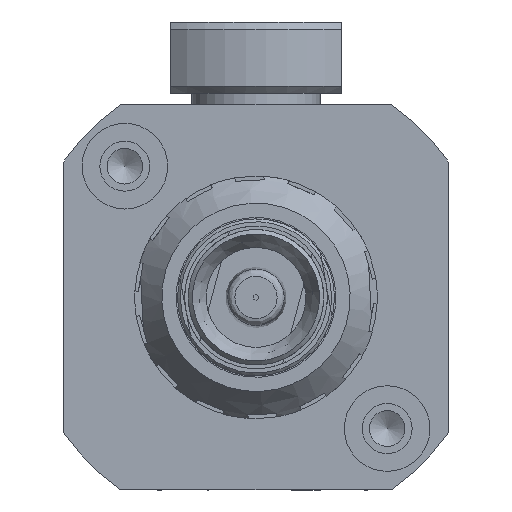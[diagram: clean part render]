
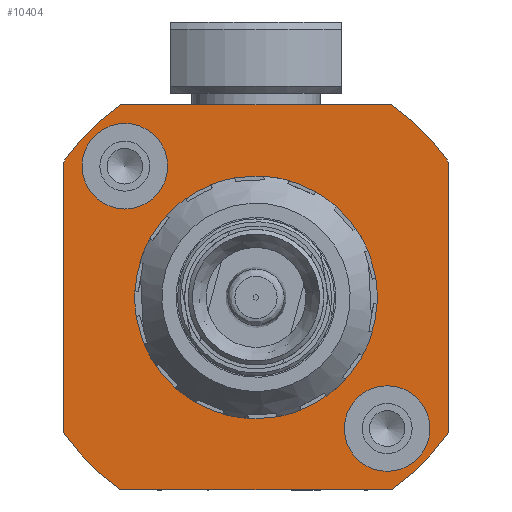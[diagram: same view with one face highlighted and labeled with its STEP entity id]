
A CAD part, front view. The second image highlights one B-rep face of the part: STEP entity #10404.
In plain terms, the highlighted planar face has unit normal (0, -1, 0).
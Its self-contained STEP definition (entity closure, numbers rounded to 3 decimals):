
#111 = AXIS2_PLACEMENT_3D ( 'NONE', #20947, #1014, #6873 ) ;
#171 = DIRECTION ( 'NONE',  ( 0., 0., -1. ) ) ;
#241 = CARTESIAN_POINT ( 'NONE',  ( -33.875, -75.56, 312.874 ) ) ;
#299 = DIRECTION ( 'NONE',  ( 0., 1., 0. ) ) ;
#454 = CARTESIAN_POINT ( 'NONE',  ( -37.888, -75.56, 316.887 ) ) ;
#632 = CARTESIAN_POINT ( 'NONE',  ( -15.196, -75.56, 317.181 ) ) ;
#692 = DIRECTION ( 'NONE',  ( -1., 0., 0. ) ) ;
#1014 = DIRECTION ( 'NONE',  ( 0., 1., 0. ) ) ;
#1813 = VERTEX_POINT ( 'NONE', #241 ) ;
#1875 = DIRECTION ( 'NONE',  ( 0., -1., 0. ) ) ;
#2005 = AXIS2_PLACEMENT_3D ( 'NONE', #2814, #7050, #8825 ) ;
#2060 = CARTESIAN_POINT ( 'NONE',  ( -24.388, -75.56, 326.374 ) ) ;
#2186 = ORIENTED_EDGE ( 'NONE', *, *, #10902, .F. ) ;
#2475 = CARTESIAN_POINT ( 'NONE',  ( -37.888, -75.56, 335.861 ) ) ;
#2814 = CARTESIAN_POINT ( 'NONE',  ( -24.388, -75.56, 326.374 ) ) ;
#2832 = EDGE_LOOP ( 'NONE', ( #2186 ) ) ;
#3388 = VERTEX_POINT ( 'NONE', #454 ) ;
#3494 = FACE_OUTER_BOUND ( 'NONE', #11278, .T. ) ;
#3549 = EDGE_CURVE ( 'NONE', #22873, #6006, #16748, .T. ) ;
#3553 = ORIENTED_EDGE ( 'NONE', *, *, #4660, .F. ) ;
#3746 = CARTESIAN_POINT ( 'NONE',  ( -24.388, -75.56, 326.374 ) ) ;
#3812 = ORIENTED_EDGE ( 'NONE', *, *, #10671, .F. ) ;
#3868 = FACE_BOUND ( 'NONE', #2832, .T. ) ;
#3985 = CARTESIAN_POINT ( 'NONE',  ( -15.196, -75.56, 320.181 ) ) ;
#4130 = EDGE_CURVE ( 'NONE', #6331, #22873, #16260, .T. ) ;
#4660 = EDGE_CURVE ( 'NONE', #10927, #10927, #5460, .T. ) ;
#4842 = AXIS2_PLACEMENT_3D ( 'NONE', #3746, #17052, #7320 ) ;
#5159 = CARTESIAN_POINT ( 'NONE',  ( -24.388, -75.56, 334.874 ) ) ;
#5448 = AXIS2_PLACEMENT_3D ( 'NONE', #2060, #17671, #171 ) ;
#5460 = CIRCLE ( 'NONE', #6673, 3. ) ;
#5706 = AXIS2_PLACEMENT_3D ( 'NONE', #24466, #24599, #8706 ) ;
#6006 = VERTEX_POINT ( 'NONE', #17869 ) ;
#6331 = VERTEX_POINT ( 'NONE', #10752 ) ;
#6483 = CIRCLE ( 'NONE', #2005, 8.5 ) ;
#6673 = AXIS2_PLACEMENT_3D ( 'NONE', #25278, #1875, #7742 ) ;
#6873 = DIRECTION ( 'NONE',  ( 0., 0., -1. ) ) ;
#6897 = CIRCLE ( 'NONE', #12188, 16.5 ) ;
#7050 = DIRECTION ( 'NONE',  ( 0., -1., 0. ) ) ;
#7320 = DIRECTION ( 'NONE',  ( 0., 0., -1. ) ) ;
#7662 = VERTEX_POINT ( 'NONE', #2475 ) ;
#7742 = DIRECTION ( 'NONE',  ( 0., 0., 1. ) ) ;
#8706 = DIRECTION ( 'NONE',  ( 0., 0., -1. ) ) ;
#8825 = DIRECTION ( 'NONE',  ( 0., 0., 1. ) ) ;
#8918 = ORIENTED_EDGE ( 'NONE', *, *, #13774, .F. ) ;
#9152 = CARTESIAN_POINT ( 'NONE',  ( -33.581, -75.56, 338.566 ) ) ;
#9201 = CARTESIAN_POINT ( 'NONE',  ( -10.888, -75.56, 316.887 ) ) ;
#10404 = ADVANCED_FACE ( 'NONE', ( #3868, #3494, #23333, #24865 ), #19369, .F. ) ;
#10671 = EDGE_CURVE ( 'NONE', #15866, #6331, #6897, .T. ) ;
#10752 = CARTESIAN_POINT ( 'NONE',  ( -10.888, -75.56, 335.861 ) ) ;
#10815 = ORIENTED_EDGE ( 'NONE', *, *, #4130, .F. ) ;
#10902 = EDGE_CURVE ( 'NONE', #12946, #12946, #6483, .T. ) ;
#10927 = VERTEX_POINT ( 'NONE', #9152 ) ;
#11278 = EDGE_LOOP ( 'NONE', ( #19836, #16035, #8918, #22719, #20304, #10815, #3812, #11447 ) ) ;
#11447 = ORIENTED_EDGE ( 'NONE', *, *, #19658, .F. ) ;
#11528 = VECTOR ( 'NONE', #15018, 1000. ) ;
#12188 = AXIS2_PLACEMENT_3D ( 'NONE', #14327, #299, #20100 ) ;
#12426 = LINE ( 'NONE', #16407, #20072 ) ;
#12614 = LINE ( 'NONE', #19040, #22983 ) ;
#12946 = VERTEX_POINT ( 'NONE', #5159 ) ;
#13693 = VERTEX_POINT ( 'NONE', #14157 ) ;
#13774 = EDGE_CURVE ( 'NONE', #1813, #3388, #15210, .T. ) ;
#13839 = EDGE_CURVE ( 'NONE', #3388, #7662, #12614, .T. ) ;
#14028 = DIRECTION ( 'NONE',  ( 0., -1., 0. ) ) ;
#14157 = CARTESIAN_POINT ( 'NONE',  ( -33.875, -75.56, 339.874 ) ) ;
#14327 = CARTESIAN_POINT ( 'NONE',  ( -24.388, -75.56, 326.374 ) ) ;
#14431 = VECTOR ( 'NONE', #24350, 1000. ) ;
#15018 = DIRECTION ( 'NONE',  ( 1., 0., 0. ) ) ;
#15210 = CIRCLE ( 'NONE', #111, 16.5 ) ;
#15603 = DIRECTION ( 'NONE',  ( 0., 0., 1. ) ) ;
#15748 = EDGE_LOOP ( 'NONE', ( #20073 ) ) ;
#15866 = VERTEX_POINT ( 'NONE', #20825 ) ;
#15886 = VERTEX_POINT ( 'NONE', #3985 ) ;
#16035 = ORIENTED_EDGE ( 'NONE', *, *, #13839, .F. ) ;
#16220 = EDGE_LOOP ( 'NONE', ( #3553 ) ) ;
#16260 = LINE ( 'NONE', #24081, #14431 ) ;
#16407 = CARTESIAN_POINT ( 'NONE',  ( -24.388, -75.56, 312.874 ) ) ;
#16748 = CIRCLE ( 'NONE', #5706, 16.5 ) ;
#17052 = DIRECTION ( 'NONE',  ( 0., 1., 0. ) ) ;
#17287 = EDGE_CURVE ( 'NONE', #6006, #1813, #12426, .T. ) ;
#17671 = DIRECTION ( 'NONE',  ( 0., 1., 0. ) ) ;
#17677 = EDGE_CURVE ( 'NONE', #15886, #15886, #18337, .T. ) ;
#17869 = CARTESIAN_POINT ( 'NONE',  ( -14.902, -75.56, 312.874 ) ) ;
#18337 = CIRCLE ( 'NONE', #24501, 3. ) ;
#19040 = CARTESIAN_POINT ( 'NONE',  ( -37.888, -75.56, 326.374 ) ) ;
#19369 = PLANE ( 'NONE',  #4842 ) ;
#19658 = EDGE_CURVE ( 'NONE', #13693, #15866, #24764, .T. ) ;
#19836 = ORIENTED_EDGE ( 'NONE', *, *, #20526, .F. ) ;
#20072 = VECTOR ( 'NONE', #692, 1000. ) ;
#20073 = ORIENTED_EDGE ( 'NONE', *, *, #17677, .F. ) ;
#20100 = DIRECTION ( 'NONE',  ( 0., 0., -1. ) ) ;
#20304 = ORIENTED_EDGE ( 'NONE', *, *, #3549, .F. ) ;
#20526 = EDGE_CURVE ( 'NONE', #7662, #13693, #21360, .T. ) ;
#20561 = DIRECTION ( 'NONE',  ( 0., 0., 1. ) ) ;
#20825 = CARTESIAN_POINT ( 'NONE',  ( -14.902, -75.56, 339.874 ) ) ;
#20947 = CARTESIAN_POINT ( 'NONE',  ( -24.388, -75.56, 326.374 ) ) ;
#21360 = CIRCLE ( 'NONE', #5448, 16.5 ) ;
#22714 = CARTESIAN_POINT ( 'NONE',  ( -24.388, -75.56, 339.874 ) ) ;
#22719 = ORIENTED_EDGE ( 'NONE', *, *, #17287, .F. ) ;
#22873 = VERTEX_POINT ( 'NONE', #9201 ) ;
#22983 = VECTOR ( 'NONE', #20561, 1000. ) ;
#23333 = FACE_BOUND ( 'NONE', #15748, .T. ) ;
#24081 = CARTESIAN_POINT ( 'NONE',  ( -10.888, -75.56, 326.374 ) ) ;
#24350 = DIRECTION ( 'NONE',  ( 0., 0., -1. ) ) ;
#24466 = CARTESIAN_POINT ( 'NONE',  ( -24.388, -75.56, 326.374 ) ) ;
#24501 = AXIS2_PLACEMENT_3D ( 'NONE', #632, #14028, #15603 ) ;
#24599 = DIRECTION ( 'NONE',  ( 0., 1., 0. ) ) ;
#24764 = LINE ( 'NONE', #22714, #11528 ) ;
#24865 = FACE_BOUND ( 'NONE', #16220, .T. ) ;
#25278 = CARTESIAN_POINT ( 'NONE',  ( -33.581, -75.56, 335.566 ) ) ;
